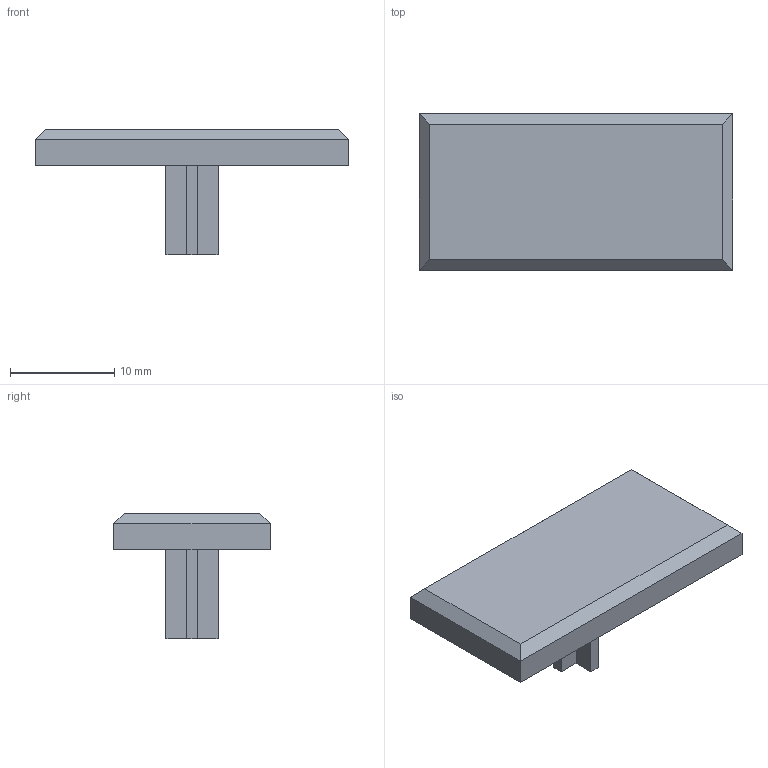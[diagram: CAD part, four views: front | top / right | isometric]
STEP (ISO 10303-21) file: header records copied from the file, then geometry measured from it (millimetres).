
FILE_DESCRIPTION (( 'STEP AP203' ), '1' );
FILE_NAME ('CE-PM-1530G.STEP', '2015-12-17T09:12:39', ( '' ), ( '' ), 'SwSTEP 2.0', 'SolidWorks 2013', '' );
FILE_SCHEMA (( 'CONFIG_CONTROL_DESIGN' ));
Length unit declared in the file: millimetre
Products named in the file (1): CE-PM-1530G
Bounding box: 30 x 15 x 12 mm (x, y, z)
Volume: 1192.3 mm3; surface area: 1471.6 mm2
Topology: 1 solids, 1 shells, 28 faces, 68 edges, 44 vertices
Faces by surface type: plane 28
Entity records: 877 total; most frequent: CARTESIAN_POINT 141, ORIENTED_EDGE 136, DIRECTION 126, EDGE_CURVE 68, VECTOR 68, LINE 68, VERTEX_POINT 44, EDGE_LOOP 30
